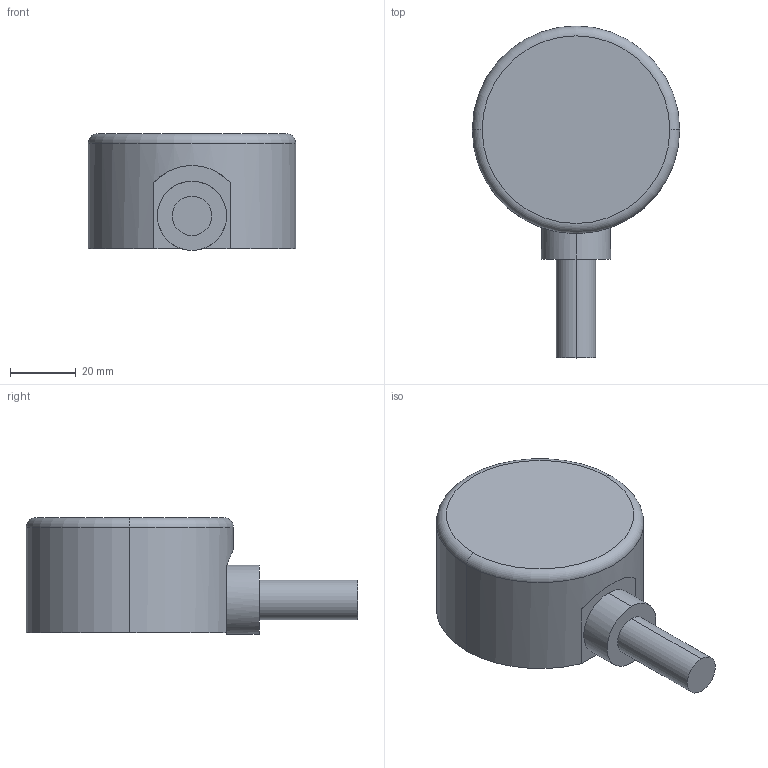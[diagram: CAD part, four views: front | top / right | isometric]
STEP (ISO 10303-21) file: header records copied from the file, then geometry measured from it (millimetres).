
FILE_DESCRIPTION (( 'STEP AP214' ), '1' );
FILE_NAME ('Termometr_bimetaliczny_x_0_3D_AFRISO.STEP', '2022-12-19T09:25:40', ( '' ), ( '' ), 'SwSTEP 2.0', 'SolidWorks 2022', '' );
FILE_SCHEMA (( 'AUTOMOTIVE_DESIGN' ));
Length unit declared in the file: millimetre
Products named in the file (1): Termometr_bimetaliczny_x_0_3D_AFRISO
Bounding box: 63 x 100.8 x 35.5 mm (x, y, z)
Volume: 114753 mm3; surface area: 14688 mm2
Topology: 1 solids, 1 shells, 15 faces, 32 edges, 20 vertices
Faces by surface type: cylinder 7, plane 6, torus 2
Entity records: 471 total; most frequent: CARTESIAN_POINT 93, DIRECTION 83, ORIENTED_EDGE 64, AXIS2_PLACEMENT_3D 36, EDGE_CURVE 32, VERTEX_POINT 20, CIRCLE 20, EDGE_LOOP 16
